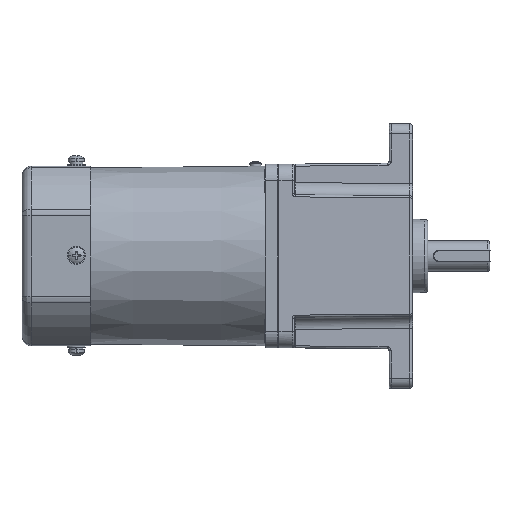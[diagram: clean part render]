
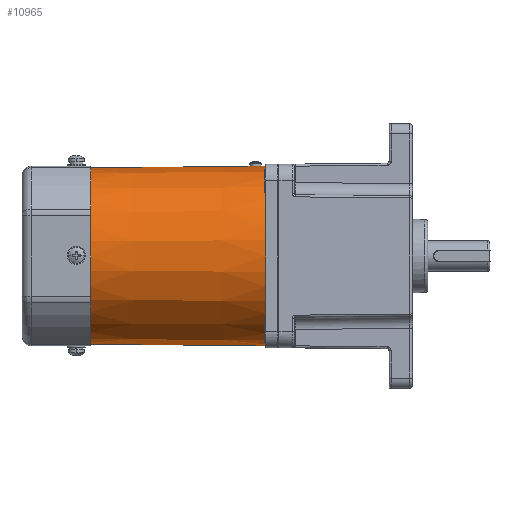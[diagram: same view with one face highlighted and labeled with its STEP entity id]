
A CAD part, front view. The second image highlights one B-rep face of the part: STEP entity #10965.
In plain terms, the highlighted conical face has half-angle 0.503 degrees and reference radius 43.236 mm.
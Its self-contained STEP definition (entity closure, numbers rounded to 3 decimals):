
#1166 = LINE ( 'NONE', #26969, #30572 ) ;
#1394 = AXIS2_PLACEMENT_3D ( 'NONE', #8194, #34210, #24114 ) ;
#3252 = EDGE_CURVE ( 'NONE', #22047, #34163, #16970, .T. ) ;
#4788 = CARTESIAN_POINT ( 'NONE',  ( 2632.292, -775.157, -44. ) ) ;
#5670 = AXIS2_PLACEMENT_3D ( 'NONE', #22620, #9888, #13060 ) ;
#6855 = ORIENTED_EDGE ( 'NONE', *, *, #33524, .T. ) ;
#8133 = EDGE_LOOP ( 'NONE', ( #28812, #9688, #23685, #30009, #6855 ) ) ;
#8194 = CARTESIAN_POINT ( 'NONE',  ( 2545.293, -775.157, 0. ) ) ;
#8375 = CARTESIAN_POINT ( 'NONE',  ( -2380.797, -775.157, 0. ) ) ;
#9110 = DIRECTION ( 'NONE',  ( 1., 0., 0. ) ) ;
#9688 = ORIENTED_EDGE ( 'NONE', *, *, #32067, .F. ) ;
#9888 = DIRECTION ( 'NONE',  ( -1., 0., 0. ) ) ;
#10625 = DIRECTION ( 'NONE',  ( 1., 0., -0.009 ) ) ;
#10965 = ADVANCED_FACE ( 'NONE', ( #25213 ), #30678, .T. ) ;
#13060 = DIRECTION ( 'NONE',  ( 0., 0., -1. ) ) ;
#13128 = VERTEX_POINT ( 'NONE', #34290 ) ;
#15115 = CIRCLE ( 'NONE', #5670, 44. ) ;
#16970 = LINE ( 'NONE', #29907, #37089 ) ;
#17900 = LINE ( 'NONE', #8375, #39853 ) ;
#18095 = VERTEX_POINT ( 'NONE', #32338 ) ;
#21646 = CIRCLE ( 'NONE', #1394, 43.236 ) ;
#22047 = VERTEX_POINT ( 'NONE', #32210 ) ;
#22620 = CARTESIAN_POINT ( 'NONE',  ( 2632.292, -775.157, 0. ) ) ;
#23685 = ORIENTED_EDGE ( 'NONE', *, *, #3252, .T. ) ;
#23791 = DIRECTION ( 'NONE',  ( 1., 0., 0.009 ) ) ;
#24114 = DIRECTION ( 'NONE',  ( 0., 0., 1. ) ) ;
#24733 = VERTEX_POINT ( 'NONE', #29597 ) ;
#25213 = FACE_OUTER_BOUND ( 'NONE', #8133, .T. ) ;
#26969 = CARTESIAN_POINT ( 'NONE',  ( 2545.293, -775.157, 43.236 ) ) ;
#28812 = ORIENTED_EDGE ( 'NONE', *, *, #34649, .F. ) ;
#29208 = DIRECTION ( 'NONE',  ( 0., 0., -1. ) ) ;
#29597 = CARTESIAN_POINT ( 'NONE',  ( 2622.292, -775.157, 43.912 ) ) ;
#29907 = CARTESIAN_POINT ( 'NONE',  ( 2545.293, -775.157, -43.236 ) ) ;
#30009 = ORIENTED_EDGE ( 'NONE', *, *, #38223, .T. ) ;
#30572 = VECTOR ( 'NONE', #23791, 1000. ) ;
#30678 = CONICAL_SURFACE ( 'NONE', #36693, 43.236, 0.009 ) ;
#32067 = EDGE_CURVE ( 'NONE', #22047, #13128, #21646, .T. ) ;
#32210 = CARTESIAN_POINT ( 'NONE',  ( 2545.293, -775.157, -43.236 ) ) ;
#32338 = CARTESIAN_POINT ( 'NONE',  ( 2632.292, -775.157, 44. ) ) ;
#33524 = EDGE_CURVE ( 'NONE', #18095, #24733, #17900, .T. ) ;
#33956 = DIRECTION ( 'NONE',  ( -1., 0., -0.009 ) ) ;
#34163 = VERTEX_POINT ( 'NONE', #4788 ) ;
#34210 = DIRECTION ( 'NONE',  ( -1., 0., 0. ) ) ;
#34290 = CARTESIAN_POINT ( 'NONE',  ( 2545.293, -775.157, 43.236 ) ) ;
#34649 = EDGE_CURVE ( 'NONE', #13128, #24733, #1166, .T. ) ;
#34683 = CARTESIAN_POINT ( 'NONE',  ( 2545.293, -775.157, 0. ) ) ;
#36693 = AXIS2_PLACEMENT_3D ( 'NONE', #34683, #9110, #29208 ) ;
#37089 = VECTOR ( 'NONE', #10625, 1000. ) ;
#38223 = EDGE_CURVE ( 'NONE', #34163, #18095, #15115, .T. ) ;
#39853 = VECTOR ( 'NONE', #33956, 1000. ) ;
